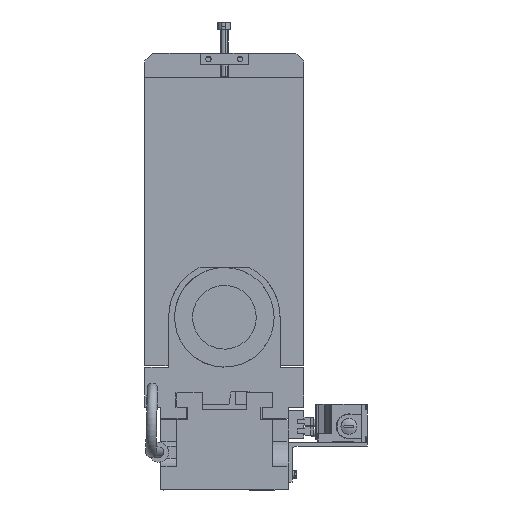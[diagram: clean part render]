
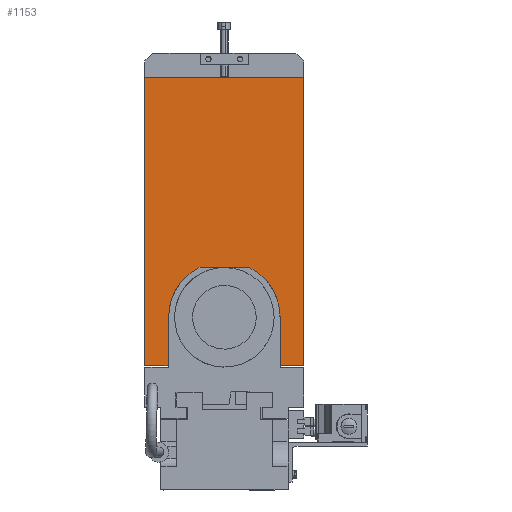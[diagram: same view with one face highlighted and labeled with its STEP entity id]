
A CAD part, front view. The second image highlights one B-rep face of the part: STEP entity #1153.
In plain terms, the highlighted planar face has unit normal (0, -1, 0).
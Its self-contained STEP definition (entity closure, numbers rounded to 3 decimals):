
#1006=CARTESIAN_POINT('',(112.605,134.293,101.715));
#1007=VERTEX_POINT('',#1006);
#1008=CARTESIAN_POINT('',(26.215,134.293,101.715));
#1009=VERTEX_POINT('',#1008);
#1010=CARTESIAN_POINT('',(112.605,134.293,101.715));
#1011=DIRECTION('',(-1.0,0.0,0.0));
#1012=VECTOR('',#1011,86.389);
#1013=LINE('',#1010,#1012);
#1014=EDGE_CURVE('',#1007,#1009,#1013,.T.);
#1016=CARTESIAN_POINT('',(-1.006,134.293,101.715));
#1017=VERTEX_POINT('',#1016);
#1024=CARTESIAN_POINT('',(-87.395,134.293,101.715));
#1025=VERTEX_POINT('',#1024);
#1026=CARTESIAN_POINT('',(-1.006,134.293,101.715));
#1027=DIRECTION('',(-1.0,0.0,0.0));
#1028=VECTOR('',#1027,86.389);
#1029=LINE('',#1026,#1028);
#1030=EDGE_CURVE('',#1017,#1025,#1029,.T.);
#1062=CARTESIAN_POINT('',(-87.395,134.293,463.715));
#1063=VERTEX_POINT('',#1062);
#1064=CARTESIAN_POINT('',(112.605,134.293,463.715));
#1065=VERTEX_POINT('',#1064);
#1066=CARTESIAN_POINT('',(-87.395,134.293,463.715));
#1067=DIRECTION('',(1.0,0.0,0.0));
#1068=VECTOR('',#1067,200.);
#1069=LINE('',#1066,#1068);
#1070=EDGE_CURVE('',#1063,#1065,#1069,.T.);
#1124=CARTESIAN_POINT('',(12.605,134.293,282.715));
#1125=DIRECTION('',(0.0,-1.0,0.0));
#1126=DIRECTION('',(1.0,0.0,0.0));
#1127=AXIS2_PLACEMENT_3D('',#1124,#1125,#1126);
#1128=PLANE('',#1127);
#1129=CARTESIAN_POINT('',(12.605,134.293,162.715));
#1130=DIRECTION('',(0.,-1.,0.));
#1131=DIRECTION('',(-0.958,0.,0.285));
#1132=AXIS2_PLACEMENT_3D('',#1129,#1130,#1131);
#1133=CIRCLE('',#1132,62.5);
#1134=EDGE_CURVE('',#1009,#1017,#1133,.T.);
#1135=ORIENTED_EDGE('',*,*,#1134,.F.);
#1136=ORIENTED_EDGE('',*,*,#1014,.F.);
#1137=CARTESIAN_POINT('',(112.605,134.293,463.715));
#1138=DIRECTION('',(0.0,0.0,-1.0));
#1139=VECTOR('',#1138,362.0);
#1140=LINE('',#1137,#1139);
#1141=EDGE_CURVE('',#1065,#1007,#1140,.T.);
#1142=ORIENTED_EDGE('',*,*,#1141,.F.);
#1143=ORIENTED_EDGE('',*,*,#1070,.F.);
#1144=CARTESIAN_POINT('',(-87.395,134.293,101.715));
#1145=DIRECTION('',(0.0,0.0,1.0));
#1146=VECTOR('',#1145,362.);
#1147=LINE('',#1144,#1146);
#1148=EDGE_CURVE('',#1025,#1063,#1147,.T.);
#1149=ORIENTED_EDGE('',*,*,#1148,.F.);
#1150=ORIENTED_EDGE('',*,*,#1030,.F.);
#1151=EDGE_LOOP('',(#1135,#1136,#1142,#1143,#1149,#1150));
#1152=FACE_OUTER_BOUND('',#1151,.T.);
#1153=ADVANCED_FACE('',(#1152),#1128,.T.);
